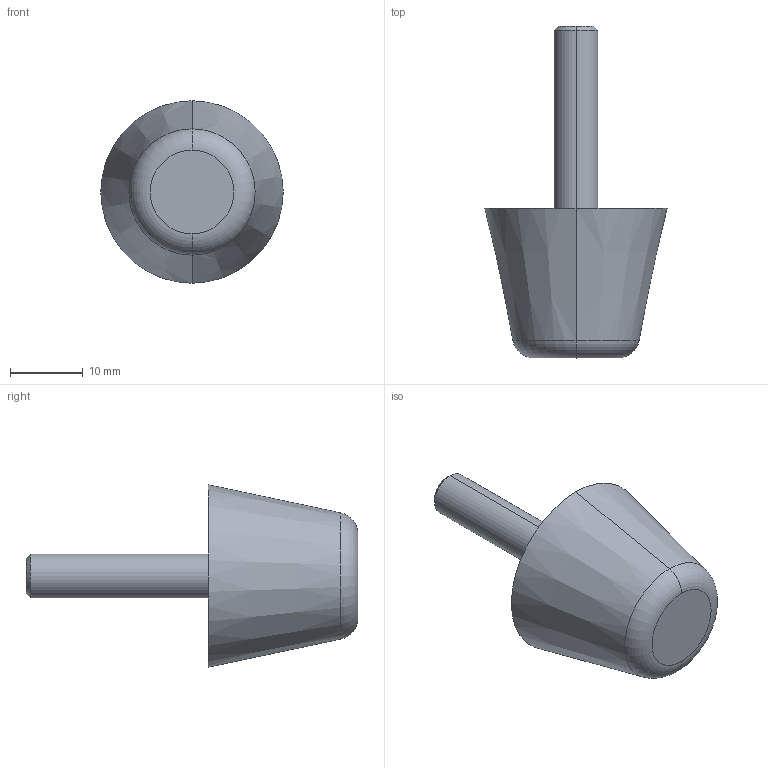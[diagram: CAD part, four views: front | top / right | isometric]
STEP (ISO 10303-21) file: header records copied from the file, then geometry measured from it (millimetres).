
FILE_DESCRIPTION (( 'STEP AP214' ), '1' );
FILE_NAME ('253-25-M6-25-70.step', '2023-03-24T07:37:25', ( '' ), ( '' ), 'SwSTEP 2.0', 'SolidWorks 2022', '' );
FILE_SCHEMA (( 'AUTOMOTIVE_DESIGN' ));
Length unit declared in the file: millimetre
Products named in the file (1): 253-25-M6-25-70
Bounding box: 25 x 45.49 x 25 mm (x, y, z)
Volume: 7610.5 mm3; surface area: 2481.2 mm2
Topology: 1 solids, 1 shells, 14 faces, 26 edges, 16 vertices
Faces by surface type: cone 6, plane 4, cylinder 2, torus 2
Entity records: 500 total; most frequent: DIRECTION 74, CARTESIAN_POINT 57, ORIENTED_EDGE 52, AXIS2_PLACEMENT_3D 33, EDGE_CURVE 26, CIRCLE 18, VERTEX_POINT 16, EDGE_LOOP 16
